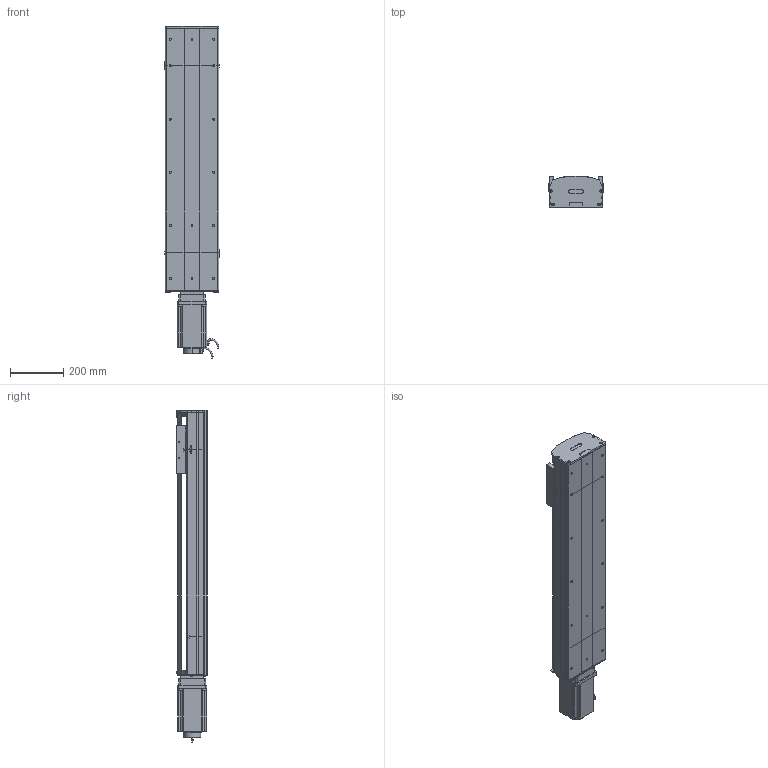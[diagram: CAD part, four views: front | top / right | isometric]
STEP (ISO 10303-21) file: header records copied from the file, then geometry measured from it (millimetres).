
FILE_DESCRIPTION (( 'STEP AP214' ), '1' );
FILE_NAME ('D20 TSH MD S700.STEP', '2010-06-30T08:33:56', ( 'Conseil Régional Haute-Normandie' ), ( 'Conseil Régional Haute-Normandie' ), 'SwSTEP 2.0', 'SolidWorks 2010', '' );
FILE_SCHEMA (( 'AUTOMOTIVE_DESIGN' ));
Length unit declared in the file: millimetre
Products named in the file (33): tete d''axe haut D20; corp D20 S700_Default; clavette; codeur 110BLDC170A-630x; rail + arbre  D20 S700; Moteur motionking 110BLDC170A-640x; Conecteur_Default; couvercle D20 S700_Default; corpl tail D20 +100_Default; tail D20 +100_Default; Plaque racord D20_Default; corps 110BLDC170A-630x; avant 110BLDC170A-630x; corpl head MD D20_Default; tete d''axe bas D20; vis M8 L12_Default; head MD D20_Default; plaque de  bout head MD D20_Default; couvercle head l D20_Default; Arbre+rail head D20; Conecteur2_Default; vis M5 L25_Default; vis M5 L8 90°_Default; Chariot D20; vis M5 L12_Default; guide D20; Arbre+rail tail D20; 2 vis M5 L12_Default; couvercle tail D20_Default; plaque de  bout tail D20_Default; chariot D20S_Default; course D20 L700_Default; D20 TSH MD S700
Assembly tree (56 placements, depth 4):
  D20 TSH MD S700
    head MD D20_Default
      vis M5 L12_Default  x4
      2 vis M5 L12_Default  x6
      vis M8 L12_Default  x4
      corpl head MD D20_Default
      vis M5 L25_Default  x2
      couvercle head l D20_Default
      Plaque racord D20_Default
      plaque de  bout head MD D20_Default
      Arbre+rail head D20
      Moteur motionking 110BLDC170A-640x
        corps 110BLDC170A-630x
        avant 110BLDC170A-630x
        clavette
        codeur 110BLDC170A-630x
        Conecteur_Default
        Conecteur2_Default
    chariot D20S_Default
      Chariot D20
      vis M5 L12_Default  x4
      guide D20  x2
    course D20 L700_Default
      rail + arbre  D20 S700
      corp D20 S700_Default
      couvercle D20 S700_Default
    tail D20 +100_Default
      vis M5 L25_Default  x2
      plaque de  bout tail D20_Default
      Arbre+rail tail D20
      corpl tail D20 +100_Default
      2 vis M5 L12_Default  x4
      tete d''axe haut D20
      vis M5 L8 90°_Default  x2
      couvercle tail D20_Default
      tete d''axe bas D20
Bounding box: 206 x 115.7 x 1248.5 mm (x, y, z)
Volume: 10511834.3 mm3; surface area: 2139459.4 mm2
Topology: 81 solids, 81 shells, 2224 faces, 5583 edges, 3613 vertices
Faces by surface type: plane 1344, cylinder 604, bspline 136, torus 73, cone 67
Entity records: 72966 total; most frequent: CARTESIAN_POINT 24217, ORIENTED_EDGE 8570, DIRECTION 8000, EDGE_CURVE 4285, LINE 2864, VECTOR 2864, VERTEX_POINT 2825, AXIS2_PLACEMENT_3D 2568
